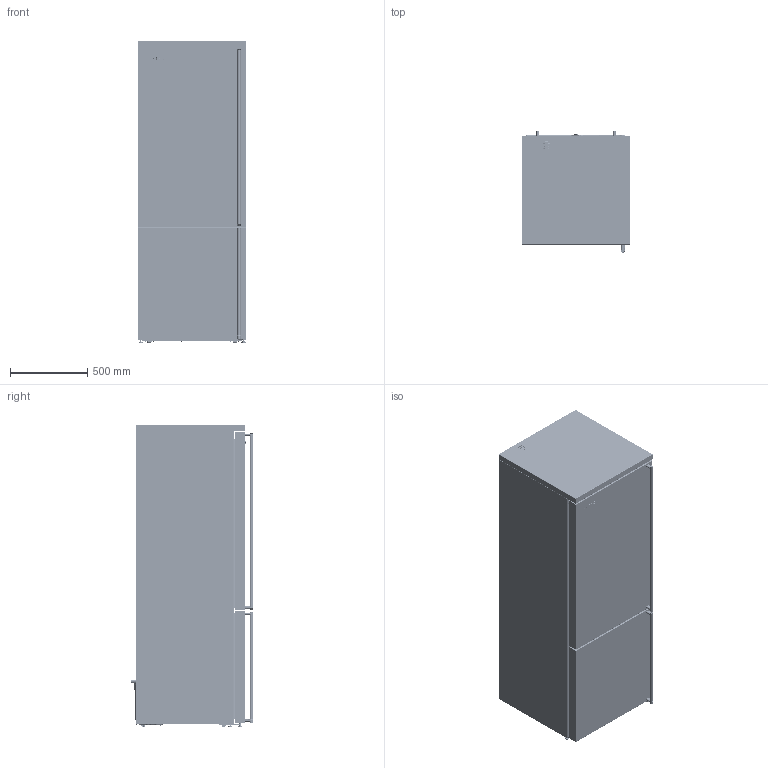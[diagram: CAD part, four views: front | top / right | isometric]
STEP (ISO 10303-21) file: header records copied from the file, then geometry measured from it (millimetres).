
FILE_DESCRIPTION(/* description */ (''),/* implementation_level */ '2;1');
FILE_NAME(/* name */ 'Assy-FA3905LX.stp',/* time_stamp */ '2025-08-06T14:36:09+02:00',/* author */ (''),/* organization */ (''),/* preprocessor_version */ 'ST-DEVELOPER v20',/* originating_system */ 'SIEMENS PLM Software NX2412.4001',/* authorisation */ '');
FILE_SCHEMA (('AUTOMOTIVE_DESIGN { 1 0 10303 214 3 1 1 1 }'));
Products named in the file (1): Assy-FA8005-DX_objects
Bounding box: 703.6 x 787.18 x 1955.1 mm (x, y, z)
Volume: 11287426.3 mm3; surface area: 25115765.5 mm2
Topology: 82 solids, 88 shells, 8767 faces, 22869 edges, 14400 vertices
Faces by surface type: plane 4410, cylinder 3018, bspline 440, torus 426, cone 346, sphere 99, extrusion 20, revolution 8
Full cylindrical faces by diameter (mm): 2 x3, 2.8 x2, 2.9 x6, 3.15 x3, 3.2 x34, 3.4 x2, 3.5 x20, 3.503 x24, 3.6 x2, 3.8 x2, 4 x14, 4.1 x9, 4.2 x20, 4.4 x3, 4.5 x8, 4.6 x14, 4.696 x20, 5 x21, 5.1 x6, 5.2 x14, 5.3 x16, 5.5 x8, 6 x102, 6.2 x2, 6.296 x4, 6.3 x8, 6.5 x3, 6.8 x5, 6.85 x1, 7 x19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
Entity records: 313395 total; most frequent: CARTESIAN_POINT 96359, ORIENTED_EDGE 43392, DIRECTION 42925, EDGE_CURVE 21696, AXIS2_PLACEMENT_3D 14661, VERTEX_POINT 14072, VECTOR 13595, LINE 13575
